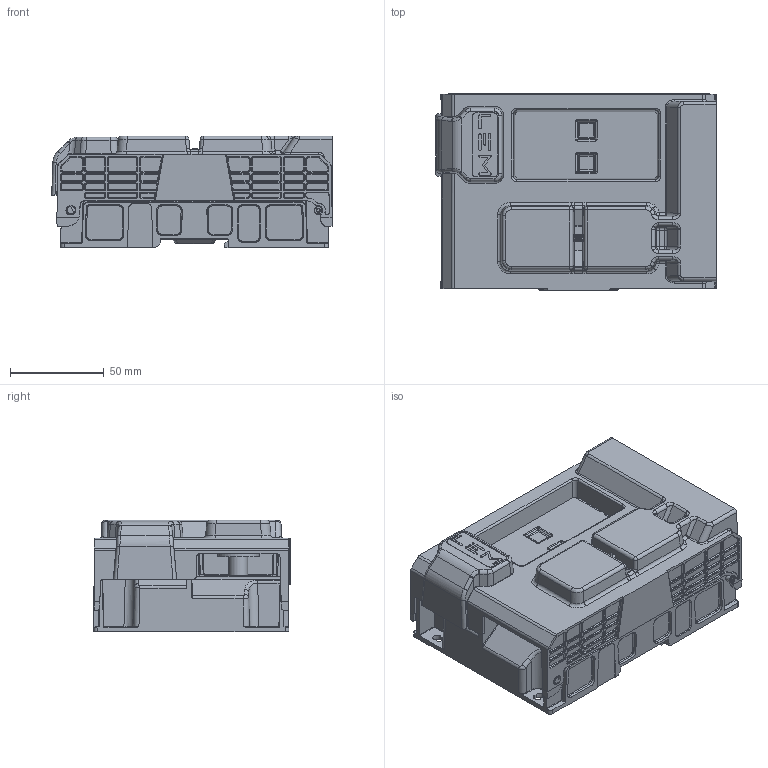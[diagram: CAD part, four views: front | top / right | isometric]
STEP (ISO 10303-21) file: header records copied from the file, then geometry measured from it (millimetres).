
FILE_DESCRIPTION (( 'STEP AP214' ), '1' );
FILE_NAME ('90.Z9.52.000.0.STEP', '2026-08-18T09:49:22', ( '' ), ( '' ), 'SwSTEP 2.0', 'SolidWorks 2026', '' );
FILE_SCHEMA (( 'AUTOMOTIVE_DESIGN' ));
Length unit declared in the file: millimetre
Products named in the file (1): 90.Z9.52.000.0
Bounding box: 149.71 x 104.65 x 59.5 mm (x, y, z)
Volume: 495689 mm3; surface area: 148926.6 mm2
Topology: 4 solids, 42 shells, 4973 faces, 12590 edges, 7792 vertices
Faces by surface type: plane 1868, cylinder 1773, bspline 924, sphere 175, cone 136, torus 97
Entity records: 166912 total; most frequent: CARTESIAN_POINT 58536, ORIENTED_EDGE 25124, DIRECTION 20115, EDGE_CURVE 12562, VERTEX_POINT 7791, AXIS2_PLACEMENT_3D 6766, VECTOR 6583, LINE 6583
